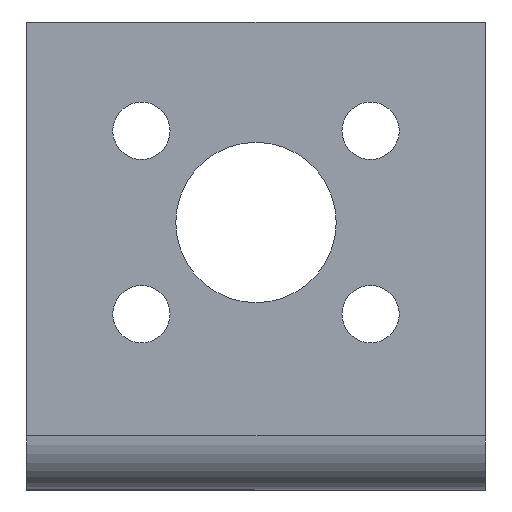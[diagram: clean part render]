
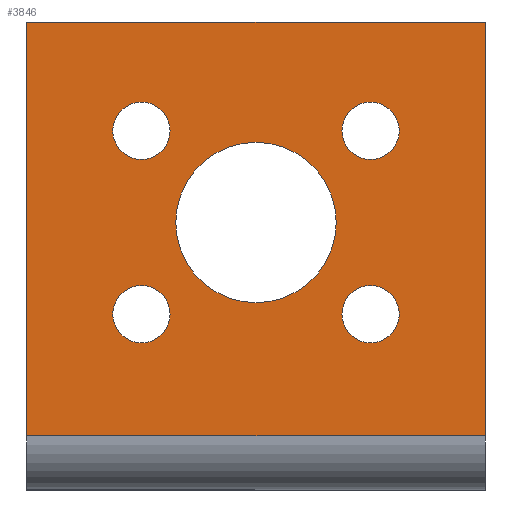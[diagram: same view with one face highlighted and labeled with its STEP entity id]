
A CAD part, front view. The second image highlights one B-rep face of the part: STEP entity #3846.
In plain terms, the highlighted planar face has unit normal (0, -1, 0).
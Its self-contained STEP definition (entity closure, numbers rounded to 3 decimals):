
#22 = EDGE_LOOP ( 'NONE', ( #463, #3807 ) ) ;
#40 = AXIS2_PLACEMENT_3D ( 'NONE', #1398, #3284, #2296 ) ;
#116 = DIRECTION ( 'NONE',  ( 0., 1., 0. ) ) ;
#140 = VERTEX_POINT ( 'NONE', #644 ) ;
#141 = AXIS2_PLACEMENT_3D ( 'NONE', #3758, #2180, #1868 ) ;
#155 = DIRECTION ( 'NONE',  ( 0., 1., 0. ) ) ;
#162 = CARTESIAN_POINT ( 'NONE',  ( 0., 33.156, 0.737 ) ) ;
#164 = DIRECTION ( 'NONE',  ( 0., 1., 0. ) ) ;
#168 = VECTOR ( 'NONE', #666, 1000. ) ;
#173 = AXIS2_PLACEMENT_3D ( 'NONE', #746, #1058, #3533 ) ;
#179 = DIRECTION ( 'NONE',  ( 1., 0., 0. ) ) ;
#181 = ORIENTED_EDGE ( 'NONE', *, *, #3400, .T. ) ;
#191 = EDGE_LOOP ( 'NONE', ( #1547, #181 ) ) ;
#211 = CARTESIAN_POINT ( 'NONE',  ( 10., 33.156, 11.344 ) ) ;
#213 = EDGE_CURVE ( 'NONE', #2181, #3070, #1006, .T. ) ;
#241 = VERTEX_POINT ( 'NONE', #2196 ) ;
#245 = CARTESIAN_POINT ( 'NONE',  ( 0., 33.156, 36.844 ) ) ;
#310 = CARTESIAN_POINT ( 'NONE',  ( 7.5, 33.156, 11.344 ) ) ;
#414 = AXIS2_PLACEMENT_3D ( 'NONE', #2013, #116, #740 ) ;
#435 = CIRCLE ( 'NONE', #1487, 2.5 ) ;
#463 = ORIENTED_EDGE ( 'NONE', *, *, #499, .T. ) ;
#493 = FACE_BOUND ( 'NONE', #22, .T. ) ;
#499 = EDGE_CURVE ( 'NONE', #4038, #140, #2758, .T. ) ;
#522 = ORIENTED_EDGE ( 'NONE', *, *, #213, .F. ) ;
#558 = CARTESIAN_POINT ( 'NONE',  ( 40., 33.156, 0.737 ) ) ;
#585 = EDGE_CURVE ( 'NONE', #1261, #1061, #3605, .T. ) ;
#601 = AXIS2_PLACEMENT_3D ( 'NONE', #2018, #3587, #179 ) ;
#630 = VERTEX_POINT ( 'NONE', #1168 ) ;
#644 = CARTESIAN_POINT ( 'NONE',  ( 27.5, 33.156, 11.344 ) ) ;
#666 = DIRECTION ( 'NONE',  ( 0., 0., -1. ) ) ;
#707 = VECTOR ( 'NONE', #3015, 1000. ) ;
#740 = DIRECTION ( 'NONE',  ( 1., 0., 0. ) ) ;
#746 = CARTESIAN_POINT ( 'NONE',  ( 10., 33.156, 27.344 ) ) ;
#793 = FACE_BOUND ( 'NONE', #1360, .T. ) ;
#821 = VERTEX_POINT ( 'NONE', #2006 ) ;
#855 = DIRECTION ( 'NONE',  ( 0., -1., 0. ) ) ;
#888 = DIRECTION ( 'NONE',  ( 1., 0., 0. ) ) ;
#893 = CIRCLE ( 'NONE', #173, 2.5 ) ;
#967 = ORIENTED_EDGE ( 'NONE', *, *, #1045, .F. ) ;
#997 = CIRCLE ( 'NONE', #414, 2.5 ) ;
#1006 = LINE ( 'NONE', #2556, #168 ) ;
#1045 = EDGE_CURVE ( 'NONE', #241, #821, #3503, .T. ) ;
#1058 = DIRECTION ( 'NONE',  ( 0., 1., 0. ) ) ;
#1061 = VERTEX_POINT ( 'NONE', #1818 ) ;
#1076 = CIRCLE ( 'NONE', #3189, 2.5 ) ;
#1082 = CARTESIAN_POINT ( 'NONE',  ( 30., 33.156, 11.344 ) ) ;
#1168 = CARTESIAN_POINT ( 'NONE',  ( 32.5, 33.156, 27.344 ) ) ;
#1217 = VECTOR ( 'NONE', #1431, 1000. ) ;
#1230 = DIRECTION ( 'NONE',  ( 0., 1., 0. ) ) ;
#1241 = DIRECTION ( 'NONE',  ( 1., 0., 0. ) ) ;
#1261 = VERTEX_POINT ( 'NONE', #2489 ) ;
#1314 = EDGE_LOOP ( 'NONE', ( #1741, #3266 ) ) ;
#1317 = ORIENTED_EDGE ( 'NONE', *, *, #3150, .T. ) ;
#1360 = EDGE_LOOP ( 'NONE', ( #2720, #1317 ) ) ;
#1398 = CARTESIAN_POINT ( 'NONE',  ( 20., 33.156, 19.344 ) ) ;
#1410 = EDGE_LOOP ( 'NONE', ( #967, #1839, #522, #1617 ) ) ;
#1431 = DIRECTION ( 'NONE',  ( 1., 0., 0. ) ) ;
#1487 = AXIS2_PLACEMENT_3D ( 'NONE', #211, #2724, #2660 ) ;
#1547 = ORIENTED_EDGE ( 'NONE', *, *, #3776, .T. ) ;
#1550 = VERTEX_POINT ( 'NONE', #310 ) ;
#1617 = ORIENTED_EDGE ( 'NONE', *, *, #3365, .F. ) ;
#1697 = VERTEX_POINT ( 'NONE', #2983 ) ;
#1705 = EDGE_CURVE ( 'NONE', #241, #3070, #1899, .T. ) ;
#1713 = DIRECTION ( 'NONE',  ( 1., 0., 0. ) ) ;
#1716 = LINE ( 'NONE', #245, #2844 ) ;
#1741 = ORIENTED_EDGE ( 'NONE', *, *, #2462, .T. ) ;
#1792 = EDGE_CURVE ( 'NONE', #1550, #1697, #435, .T. ) ;
#1812 = CARTESIAN_POINT ( 'NONE',  ( 0., 33.156, 36.844 ) ) ;
#1818 = CARTESIAN_POINT ( 'NONE',  ( 27., 33.156, 19.344 ) ) ;
#1839 = ORIENTED_EDGE ( 'NONE', *, *, #1705, .T. ) ;
#1848 = CARTESIAN_POINT ( 'NONE',  ( 32.5, 33.156, 11.344 ) ) ;
#1851 = DIRECTION ( 'NONE',  ( 0., 1., 0. ) ) ;
#1868 = DIRECTION ( 'NONE',  ( 1., 0., 0. ) ) ;
#1899 = LINE ( 'NONE', #162, #1217 ) ;
#2006 = CARTESIAN_POINT ( 'NONE',  ( 0., 33.156, 36.844 ) ) ;
#2013 = CARTESIAN_POINT ( 'NONE',  ( 10., 33.156, 11.344 ) ) ;
#2018 = CARTESIAN_POINT ( 'NONE',  ( 30., 33.156, 27.344 ) ) ;
#2098 = CARTESIAN_POINT ( 'NONE',  ( 27.5, 33.156, 27.344 ) ) ;
#2180 = DIRECTION ( 'NONE',  ( 0., 1., 0. ) ) ;
#2181 = VERTEX_POINT ( 'NONE', #2791 ) ;
#2196 = CARTESIAN_POINT ( 'NONE',  ( 0., 33.156, 0.737 ) ) ;
#2241 = FACE_OUTER_BOUND ( 'NONE', #1410, .T. ) ;
#2296 = DIRECTION ( 'NONE',  ( 1., 0., 0. ) ) ;
#2336 = DIRECTION ( 'NONE',  ( 1., 0., 0. ) ) ;
#2340 = CARTESIAN_POINT ( 'NONE',  ( 0., 33.156, 36.844 ) ) ;
#2342 = CIRCLE ( 'NONE', #601, 2.5 ) ;
#2385 = ORIENTED_EDGE ( 'NONE', *, *, #585, .T. ) ;
#2427 = DIRECTION ( 'NONE',  ( 1., 0., 0. ) ) ;
#2428 = AXIS2_PLACEMENT_3D ( 'NONE', #1082, #155, #2336 ) ;
#2433 = VERTEX_POINT ( 'NONE', #3296 ) ;
#2439 = EDGE_CURVE ( 'NONE', #1061, #1261, #2513, .T. ) ;
#2462 = EDGE_CURVE ( 'NONE', #1697, #1550, #997, .T. ) ;
#2465 = CARTESIAN_POINT ( 'NONE',  ( 10., 33.156, 27.344 ) ) ;
#2489 = CARTESIAN_POINT ( 'NONE',  ( 13., 33.156, 19.344 ) ) ;
#2512 = AXIS2_PLACEMENT_3D ( 'NONE', #1812, #855, #2736 ) ;
#2513 = CIRCLE ( 'NONE', #40, 7. ) ;
#2556 = CARTESIAN_POINT ( 'NONE',  ( 40., 33.156, 36.844 ) ) ;
#2593 = FACE_BOUND ( 'NONE', #1314, .T. ) ;
#2611 = VERTEX_POINT ( 'NONE', #2098 ) ;
#2636 = CARTESIAN_POINT ( 'NONE',  ( 30., 33.156, 11.344 ) ) ;
#2660 = DIRECTION ( 'NONE',  ( 1., 0., 0. ) ) ;
#2720 = ORIENTED_EDGE ( 'NONE', *, *, #3641, .T. ) ;
#2724 = DIRECTION ( 'NONE',  ( 0., 1., 0. ) ) ;
#2736 = DIRECTION ( 'NONE',  ( -1., 0., 0. ) ) ;
#2745 = CIRCLE ( 'NONE', #3732, 2.5 ) ;
#2758 = CIRCLE ( 'NONE', #3374, 2.5 ) ;
#2791 = CARTESIAN_POINT ( 'NONE',  ( 40., 33.156, 36.844 ) ) ;
#2844 = VECTOR ( 'NONE', #2427, 1000. ) ;
#2886 = FACE_BOUND ( 'NONE', #3514, .T. ) ;
#2933 = EDGE_CURVE ( 'NONE', #140, #4038, #3036, .T. ) ;
#2983 = CARTESIAN_POINT ( 'NONE',  ( 12.5, 33.156, 11.344 ) ) ;
#3008 = PLANE ( 'NONE',  #2512 ) ;
#3015 = DIRECTION ( 'NONE',  ( 0., 0., 1. ) ) ;
#3027 = ORIENTED_EDGE ( 'NONE', *, *, #2439, .T. ) ;
#3036 = CIRCLE ( 'NONE', #2428, 2.5 ) ;
#3070 = VERTEX_POINT ( 'NONE', #558 ) ;
#3096 = CARTESIAN_POINT ( 'NONE',  ( 30., 33.156, 27.344 ) ) ;
#3150 = EDGE_CURVE ( 'NONE', #2433, #3232, #2745, .T. ) ;
#3189 = AXIS2_PLACEMENT_3D ( 'NONE', #3096, #1230, #1241 ) ;
#3232 = VERTEX_POINT ( 'NONE', #3943 ) ;
#3266 = ORIENTED_EDGE ( 'NONE', *, *, #1792, .T. ) ;
#3284 = DIRECTION ( 'NONE',  ( 0., 1., 0. ) ) ;
#3296 = CARTESIAN_POINT ( 'NONE',  ( 7.5, 33.156, 27.344 ) ) ;
#3365 = EDGE_CURVE ( 'NONE', #821, #2181, #1716, .T. ) ;
#3374 = AXIS2_PLACEMENT_3D ( 'NONE', #2636, #164, #1713 ) ;
#3400 = EDGE_CURVE ( 'NONE', #2611, #630, #1076, .T. ) ;
#3503 = LINE ( 'NONE', #2340, #707 ) ;
#3514 = EDGE_LOOP ( 'NONE', ( #3027, #2385 ) ) ;
#3533 = DIRECTION ( 'NONE',  ( 1., 0., 0. ) ) ;
#3587 = DIRECTION ( 'NONE',  ( 0., 1., 0. ) ) ;
#3605 = CIRCLE ( 'NONE', #141, 7. ) ;
#3641 = EDGE_CURVE ( 'NONE', #3232, #2433, #893, .T. ) ;
#3732 = AXIS2_PLACEMENT_3D ( 'NONE', #2465, #1851, #888 ) ;
#3734 = FACE_BOUND ( 'NONE', #191, .T. ) ;
#3758 = CARTESIAN_POINT ( 'NONE',  ( 20., 33.156, 19.344 ) ) ;
#3776 = EDGE_CURVE ( 'NONE', #630, #2611, #2342, .T. ) ;
#3807 = ORIENTED_EDGE ( 'NONE', *, *, #2933, .T. ) ;
#3846 = ADVANCED_FACE ( 'NONE', ( #2593, #493, #3734, #2886, #793, #2241 ), #3008, .T. ) ;
#3943 = CARTESIAN_POINT ( 'NONE',  ( 12.5, 33.156, 27.344 ) ) ;
#4038 = VERTEX_POINT ( 'NONE', #1848 ) ;
